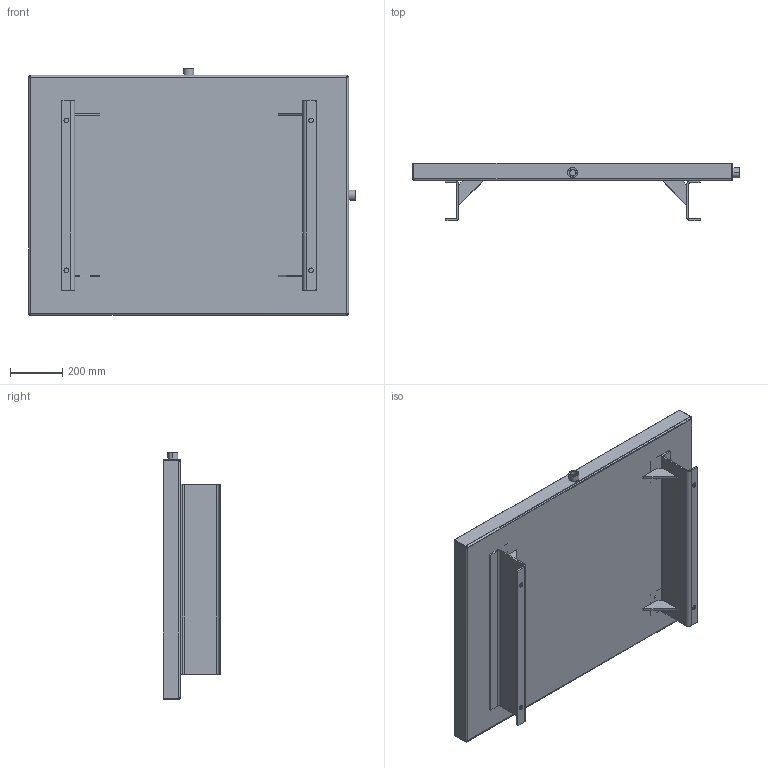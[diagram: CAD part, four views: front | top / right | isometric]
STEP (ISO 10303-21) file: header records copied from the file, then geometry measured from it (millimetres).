
FILE_DESCRIPTION (( 'STEP AP203' ), '1' );
FILE_NAME ('RJDPR050.STEP', '2015-01-07T19:37:01', ( '' ), ( '' ), 'SwSTEP 2.0', 'SolidWorks 2014', '' );
FILE_SCHEMA (( 'CONFIG_CONTROL_DESIGN' ));
Length unit declared in the file: inch
Products named in the file (1): RJDPR050
Bounding box: 1244.6 x 219.07 x 939.8 mm (x, y, z)
Surface area: 3515551.2 mm2 (no closed solid volume)
Topology: 0 solids, 13 shells, 174 faces, 420 edges, 264 vertices
Faces by surface type: plane 94, cylinder 64, bspline 8, cone 8
Entity records: 5603 total; most frequent: CARTESIAN_POINT 1475, DIRECTION 866, ORIENTED_EDGE 752, EDGE_CURVE 420, AXIS2_PLACEMENT_3D 295, VECTOR 276, LINE 276, VERTEX_POINT 264
